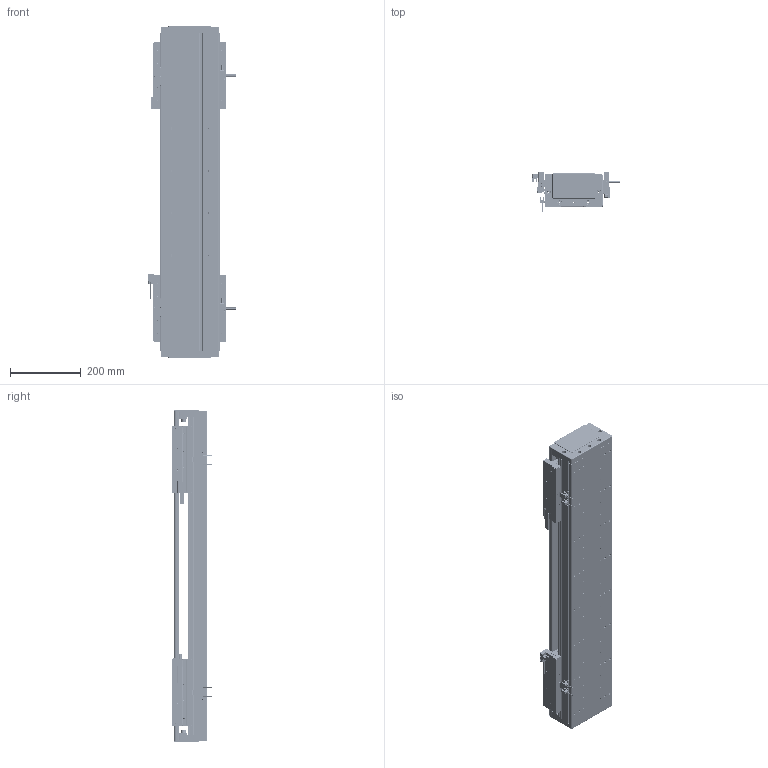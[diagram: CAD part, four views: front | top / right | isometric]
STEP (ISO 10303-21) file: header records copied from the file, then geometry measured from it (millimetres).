
FILE_DESCRIPTION (( 'STEP AP203' ), '1' );
FILE_NAME ('DA-C165-2-C2-T440-C010-0.2 直线电机.STEP', '2023-05-11T08:16:09', ( '微软用户' ), ( '微软中国' ), 'SwSTEP 2.0', 'SolidWorks 2019', '' );
FILE_SCHEMA (( 'CONFIG_CONTROL_DESIGN' ));
Length unit declared in the file: millimetre
Products named in the file (19): 复件 XD-U-02L 磁栅尺^DA-C165-C2-T-C010-0.2-N 直线电机_T; 复件 DKW-HXJ-JY-00 缓冲橡胶^DA-C165-C2-T-C010-0.2-N 直线电机; 葩璃 PM-T45^DA-C165-C2-T-C010-0.2-N 眻盄萇儂; 葩璃 PM-Y45^DA-C165-C2-T-C010-0.2-N 眻盄萇儂; 珨极趙賑雄怢啣wf-C2; IU-CU165-L-00 菁釱_L900; 复件 66338-1000-006-00 光电感应块^DA-C165-C2-T-C010-0.2-N 直线电机; 复件 DA126-GYP-ZJ-00 中间光电感应片^DA-C165-C2-T-C010-0.2-N 直线电机; 复件 DA165-GYP-00 光电感应片^DA-C165-C2-T-C010-0.2-N 直线电机; 复件 DA95-HXJ-00 缓冲橡胶^DA-C165-C2-T-C010-0.2-N 直线电机; IU-CU165-L 菁釱絳寢; 复件 DA165-DG-H-N-00 端盖^DA-C165-C2-T-C010-0.2-N 直线电机; 复件 DA165-T-002-00 盖板^DA-C165-C2-T-C010-0.2-N 直线电机_0840-002-00; 葩璃 DA95-GT-T-00^IU-CU165-L 菁釱絳寢_T; 复件 CKM02-W075-C1C2-TP-3.0 一体电机-C2^DA-C165-C2-T-C010-0.2-N 直线电机; 复件 DMA-010-0.2 读数头^DA-C165-C2-T-C010-0.2-N 直线电机; DA-C165-2-C2-T440-C010-0.2 眻盄萇儂; 葩璃 CKM01-W075-TRL^DA-C165-C2-T-C010-0.2-N 眻盄萇儂; 复件 六角薄螺母 M3^DA-C165-C2-T-C010-0.2-N 直线电机_GB_FASTENER_NUT_STNAB M3-C
Assembly tree (38 placements, depth 3):
  DA-C165-2-C2-T440-C010-0.2 眻盄萇儂
    IU-CU165-L 菁釱絳寢
      IU-CU165-L-00 菁釱_L900
      葩璃 DA95-GT-T-00^IU-CU165-L 菁釱絳寢_T  x4
    复件 DA165-DG-H-N-00 端盖^DA-C165-C2-T-C010-0.2-N 直线电机  x2
    复件 DA95-HXJ-00 缓冲橡胶^DA-C165-C2-T-C010-0.2-N 直线电机  x4
    复件 DA165-T-002-00 盖板^DA-C165-C2-T-C010-0.2-N 直线电机_0840-002-00
    复件 XD-U-02L 磁栅尺^DA-C165-C2-T-C010-0.2-N 直线电机_T
    葩璃 PM-T45^DA-C165-C2-T-C010-0.2-N 眻盄萇儂  x4
    葩璃 CKM01-W075-TRL^DA-C165-C2-T-C010-0.2-N 眻盄萇儂
    复件 CKM02-W075-C1C2-TP-3.0 一体电机-C2^DA-C165-C2-T-C010-0.2-N 直线电机  x2
    复件 DMA-010-0.2 读数头^DA-C165-C2-T-C010-0.2-N 直线电机  x2
    复件 DA165-GYP-00 光电感应片^DA-C165-C2-T-C010-0.2-N 直线电机  x2
    复件 66338-1000-006-00 光电感应块^DA-C165-C2-T-C010-0.2-N 直线电机
    葩璃 PM-Y45^DA-C165-C2-T-C010-0.2-N 眻盄萇儂
    复件 DA126-GYP-ZJ-00 中间光电感应片^DA-C165-C2-T-C010-0.2-N 直线电机
    复件 DKW-HXJ-JY-00 缓冲橡胶^DA-C165-C2-T-C010-0.2-N 直线电机  x2
    复件 六角薄螺母 M3^DA-C165-C2-T-C010-0.2-N 直线电机_GB_FASTENER_NUT_STNAB M3-C  x6
    珨极趙賑雄怢啣wf-C2  x2
Bounding box: 247.2 x 111.45 x 940 mm (x, y, z)
Volume: 8700169.9 mm3; surface area: 2213310.3 mm2
Topology: 115 solids, 115 shells, 4792 faces, 12705 edges, 7890 vertices
Faces by surface type: cylinder 2254, plane 1762, cone 680, torus 88, sphere 8
Entity records: 94824 total; most frequent: CARTESIAN_POINT 21414, DIRECTION 15041, ORIENTED_EDGE 14656, EDGE_CURVE 7328, AXIS2_PLACEMENT_3D 5588, VERTEX_POINT 4727, VECTOR 3865, LINE 3865
